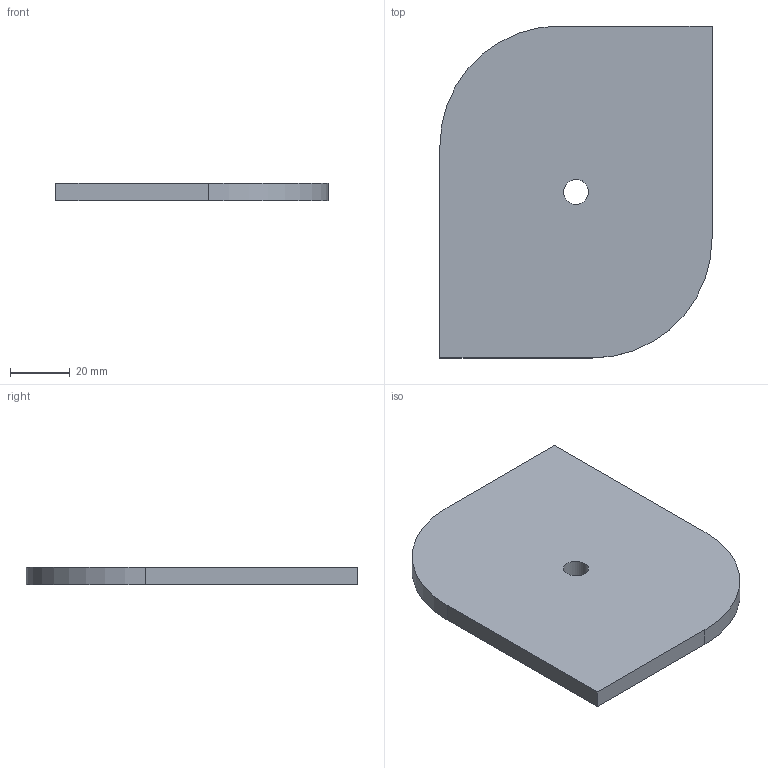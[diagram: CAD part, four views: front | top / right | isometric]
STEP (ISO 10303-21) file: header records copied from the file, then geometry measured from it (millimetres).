
FILE_DESCRIPTION(('CATIA V5 STEP Exchange'),'2;1');
FILE_NAME('C:\_Andres\UNIVERSIDAD\IQS\ASIGNATURAS\DAO\EXF\EXF-15161c\1original\Aloguín_Serramia_Ej01-plano_v1.stp','2016-03-04T14:59:42+00:00',('none'),('none'),'CATIA Version 5 Release 20 SP 1 (IN-10)','CATIA V5 STEP AP203','none');
FILE_SCHEMA(('CONFIG_CONTROL_DESIGN'));
Length unit declared in the file: millimetre
Products named in the file (1): Aloguín_Serramia_Ej01-plano_v1
Bounding box: 91 x 111 x 6 mm (x, y, z)
Volume: 56155 mm3; surface area: 21094.2 mm2
Topology: 1 solids, 1 shells, 10 faces, 24 edges, 16 vertices
Faces by surface type: plane 6, cylinder 4
Entity records: 333 total; most frequent: CARTESIAN_POINT 51, ORIENTED_EDGE 48, DIRECTION 44, EDGE_CURVE 24, AXIS2_PLACEMENT_3D 19, VECTOR 16, LINE 16, VERTEX_POINT 16
